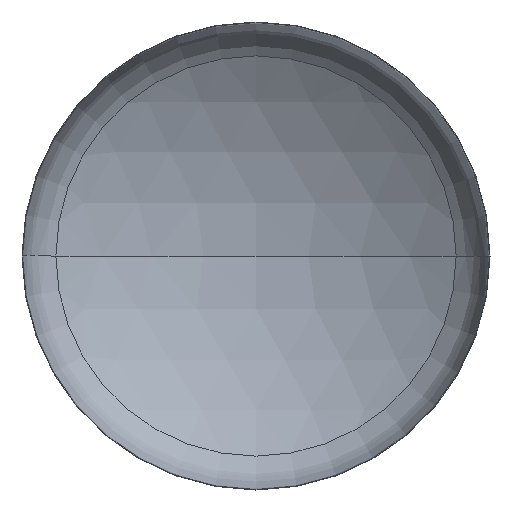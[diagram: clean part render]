
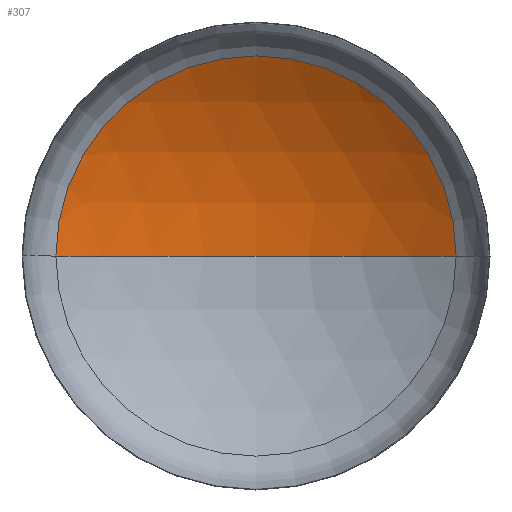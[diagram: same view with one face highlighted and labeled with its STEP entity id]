
A CAD part, front view. The second image highlights one B-rep face of the part: STEP entity #307.
In plain terms, the highlighted spherical face has radius 2400 mm.
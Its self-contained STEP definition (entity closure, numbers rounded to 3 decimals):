
#3 = CARTESIAN_POINT ( 'NONE',  ( 0., -1619.583, 0. ) ) ;
#7 = ORIENTED_EDGE ( 'NONE', *, *, #125, .T. ) ;
#11 = EDGE_LOOP ( 'NONE', ( #26, #7, #139 ) ) ;
#19 = AXIS2_PLACEMENT_3D ( 'NONE', #154, #111, #162 ) ;
#26 = ORIENTED_EDGE ( 'NONE', *, *, #142, .F. ) ;
#30 = VERTEX_POINT ( 'NONE', #333 ) ;
#43 = AXIS2_PLACEMENT_3D ( 'NONE', #3, #374, #332 ) ;
#50 = AXIS2_PLACEMENT_3D ( 'NONE', #359, #215, #379 ) ;
#51 = VERTEX_POINT ( 'NONE', #335 ) ;
#54 = AXIS2_PLACEMENT_3D ( 'NONE', #287, #282, #208 ) ;
#69 = VERTEX_POINT ( 'NONE', #253 ) ;
#109 = EDGE_CURVE ( 'NONE', #30, #69, #231, .T. ) ;
#111 = DIRECTION ( 'NONE',  ( 0., 0., -1. ) ) ;
#125 = EDGE_CURVE ( 'NONE', #51, #30, #273, .T. ) ;
#139 = ORIENTED_EDGE ( 'NONE', *, *, #109, .T. ) ;
#142 = EDGE_CURVE ( 'NONE', #51, #69, #346, .T. ) ;
#154 = CARTESIAN_POINT ( 'NONE',  ( 0., -1619.583, 0. ) ) ;
#162 = DIRECTION ( 'NONE',  ( -1., 0., 0. ) ) ;
#208 = DIRECTION ( 'NONE',  ( 1., 0., 0. ) ) ;
#215 = DIRECTION ( 'NONE',  ( 0., 0., -1. ) ) ;
#231 = CIRCLE ( 'NONE', #54, 1282.887 ) ;
#253 = CARTESIAN_POINT ( 'NONE',  ( -1282.887, 408.767, 0. ) ) ;
#273 = CIRCLE ( 'NONE', #50, 2400. ) ;
#282 = DIRECTION ( 'NONE',  ( 0., -1., 0. ) ) ;
#287 = CARTESIAN_POINT ( 'NONE',  ( 0., 408.767, 0. ) ) ;
#307 = ADVANCED_FACE ( 'NONE', ( #388 ), #378, .F. ) ;
#332 = DIRECTION ( 'NONE',  ( 1., 0., 0. ) ) ;
#333 = CARTESIAN_POINT ( 'NONE',  ( 1282.887, 408.767, 0. ) ) ;
#335 = CARTESIAN_POINT ( 'NONE',  ( 0., 780.417, 0. ) ) ;
#346 = CIRCLE ( 'NONE', #43, 2400. ) ;
#359 = CARTESIAN_POINT ( 'NONE',  ( 0., -1619.583, 0. ) ) ;
#374 = DIRECTION ( 'NONE',  ( 0., 0., 1. ) ) ;
#378 = SPHERICAL_SURFACE ( 'NONE', #19, 2400. ) ;
#379 = DIRECTION ( 'NONE',  ( -1., 0., 0. ) ) ;
#388 = FACE_OUTER_BOUND ( 'NONE', #11, .T. ) ;
